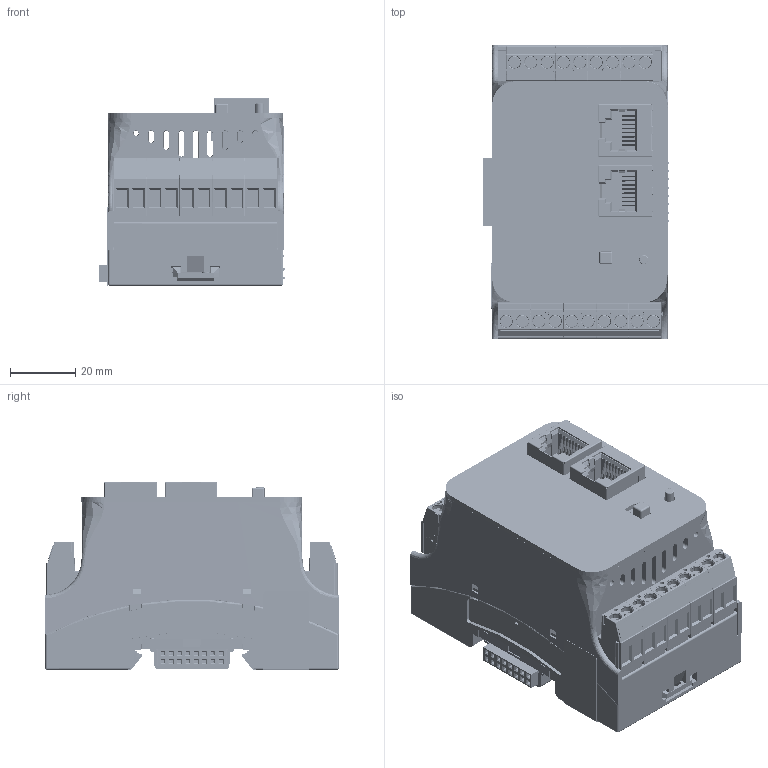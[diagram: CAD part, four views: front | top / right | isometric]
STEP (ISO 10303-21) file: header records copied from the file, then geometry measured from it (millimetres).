
FILE_DESCRIPTION(/* description */ (''),/* implementation_level */ '2;1');
FILE_NAME(/* name */ 'D:\WorkIMT\Project IMT\ИРИС-DIN\v2\!base\3D v2 на сайт\IRIS-DIN.BASE-2RS2TX.10 3D.stp',/* time_stamp */ '2025-10-29T11:51:42+03:00',/* author */ ('Admin'),/* organization */ (''),/* preprocessor_version */ 'ST-DEVELOPER v17.2',/* originating_system */ 'Autodesk Inventor 2019',/* authorisation */ '');
FILE_SCHEMA (('AUTOMOTIVE_DESIGN { 1 0 10303 214 3 1 1 }'));
Products named in the file (1): IRIS-DIN.BASE-2RS2TX.10 3D
Bounding box: 57.13 x 89.74 x 57.77 mm (x, y, z)
Volume: 77382.8 mm3; surface area: 90142.2 mm2
Topology: 5 solids, 63 shells, 10600 faces, 30189 edges, 19521 vertices
Faces by surface type: plane 8787, cylinder 1072, bspline 283, cone 249, torus 109, sphere 100
Full cylindrical faces by diameter (mm): 0.9 x4, 1 x3, 1.8 x2, 2.2 x8, 2.8 x1, 3 x4, 3.2 x6, 3.5 x1, 3.85 x4, 4.05 x19
Entity records: 370332 total; most frequent: CARTESIAN_POINT 83353, ORIENTED_EDGE 60234, DIRECTION 53245, EDGE_CURVE 30117, LINE 25781, VECTOR 25781, VERTEX_POINT 19521, AXIS2_PLACEMENT_3D 13732
